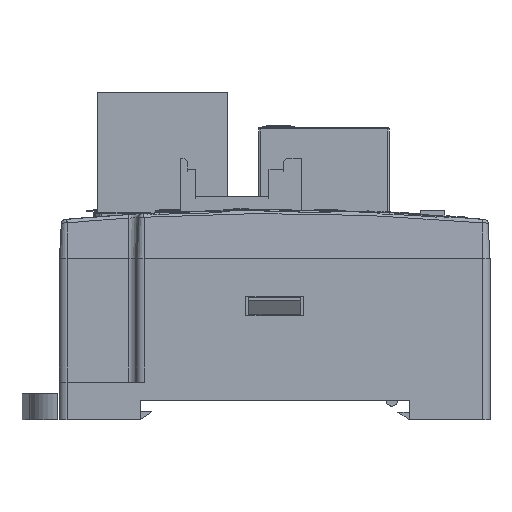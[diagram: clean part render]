
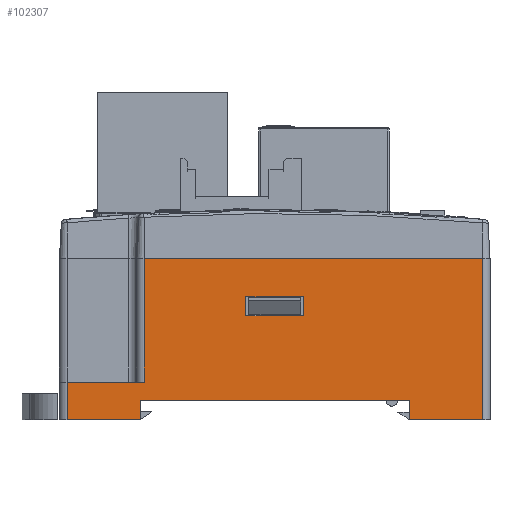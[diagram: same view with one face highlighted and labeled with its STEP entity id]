
A CAD part, front view. The second image highlights one B-rep face of the part: STEP entity #102307.
In plain terms, the highlighted planar face has unit normal (0, -1, 0).
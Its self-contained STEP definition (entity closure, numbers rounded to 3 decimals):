
#5244=DIRECTION('',(0.,0.,-1.));
#5245=VECTOR('',#5244,21.);
#5246=CARTESIAN_POINT('',(27.,-60.,0.));
#5247=LINE('',#5246,#5245);
#5304=DIRECTION('',(0.,0.,-1.));
#5305=VECTOR('',#5304,2.5);
#5306=CARTESIAN_POINT('',(17.5,-60.,-18.5));
#5307=LINE('',#5306,#5305);
#5897=DIRECTION('',(0.,0.,1.));
#5898=VECTOR('',#5897,16.1);
#5899=CARTESIAN_POINT('',(-17.,-60.,-16.1));
#5900=LINE('',#5899,#5898);
#5905=DIRECTION('',(1.,0.,0.));
#5906=VECTOR('',#5905,9.5);
#5907=CARTESIAN_POINT('',(17.5,-60.,-21.));
#5908=LINE('',#5907,#5906);
#5909=DIRECTION('',(1.,0.,0.));
#5910=VECTOR('',#5909,9.5);
#5911=CARTESIAN_POINT('',(-27.,-60.,-21.));
#5912=LINE('',#5911,#5910);
#5917=DIRECTION('',(0.,0.,1.));
#5918=VECTOR('',#5917,2.5);
#5919=CARTESIAN_POINT('',(-3.75,-60.,-7.5));
#5920=LINE('',#5919,#5918);
#5989=DIRECTION('',(1.,0.,0.));
#5990=VECTOR('',#5989,7.5);
#5991=CARTESIAN_POINT('',(-3.75,-60.,-5.));
#5992=LINE('',#5991,#5990);
#6180=DIRECTION('',(0.,0.,-1.));
#6181=VECTOR('',#6180,2.5);
#6182=CARTESIAN_POINT('',(3.75,-60.,-5.));
#6183=LINE('',#6182,#6181);
#6188=DIRECTION('',(-1.,0.,0.));
#6189=VECTOR('',#6188,7.5);
#6190=CARTESIAN_POINT('',(3.75,-60.,-7.5));
#6191=LINE('',#6190,#6189);
#6196=DIRECTION('',(-1.,0.,0.));
#6197=VECTOR('',#6196,35.);
#6198=CARTESIAN_POINT('',(17.5,-60.,-18.5));
#6199=LINE('',#6198,#6197);
#6204=DIRECTION('',(0.,0.,1.));
#6205=VECTOR('',#6204,2.5);
#6206=CARTESIAN_POINT('',(-17.5,-60.,-21.));
#6207=LINE('',#6206,#6205);
#34708=DIRECTION('',(1.,0.,0.));
#34709=VECTOR('',#34708,10.);
#34710=CARTESIAN_POINT('',(-27.,-60.,-16.1));
#34711=LINE('',#34710,#34709);
#34745=DIRECTION('',(0.,0.,1.));
#34746=VECTOR('',#34745,4.9);
#34747=CARTESIAN_POINT('',(-27.,-60.,-21.));
#34748=LINE('',#34747,#34746);
#34838=DIRECTION('',(1.,0.,0.));
#34839=VECTOR('',#34838,44.);
#34840=CARTESIAN_POINT('',(-17.,-60.,0.));
#34841=LINE('',#34840,#34839);
#85634=CARTESIAN_POINT('',(-17.5,-60.,-21.));
#85635=VERTEX_POINT('',#85634);
#85636=CARTESIAN_POINT('',(-27.,-60.,-21.));
#85637=VERTEX_POINT('',#85636);
#85664=CARTESIAN_POINT('',(27.,-60.,-21.));
#85665=VERTEX_POINT('',#85664);
#85666=CARTESIAN_POINT('',(17.5,-60.,-21.));
#85667=VERTEX_POINT('',#85666);
#85736=CARTESIAN_POINT('',(17.5,-60.,-18.5));
#85737=CARTESIAN_POINT('',(-17.5,-60.,-18.5));
#85738=VERTEX_POINT('',#85736);
#85739=VERTEX_POINT('',#85737);
#85740=CARTESIAN_POINT('',(-27.,-60.,-16.1));
#85741=VERTEX_POINT('',#85740);
#85742=CARTESIAN_POINT('',(-17.,-60.,-16.1));
#85743=VERTEX_POINT('',#85742);
#85744=CARTESIAN_POINT('',(-3.75,-60.,-7.5));
#85745=CARTESIAN_POINT('',(-3.75,-60.,-5.));
#85746=VERTEX_POINT('',#85744);
#85747=VERTEX_POINT('',#85745);
#85748=CARTESIAN_POINT('',(3.75,-60.,-7.5));
#85749=VERTEX_POINT('',#85748);
#85750=CARTESIAN_POINT('',(3.75,-60.,-5.));
#85751=VERTEX_POINT('',#85750);
#95502=CARTESIAN_POINT('',(-17.,-60.,0.));
#95503=CARTESIAN_POINT('',(27.,-60.,0.));
#95504=VERTEX_POINT('',#95502);
#95505=VERTEX_POINT('',#95503);
#102274=CARTESIAN_POINT('',(0.,-60.,-10.5));
#102275=DIRECTION('',(0.,1.,0.));
#102276=DIRECTION('',(1.,0.,0.));
#102277=AXIS2_PLACEMENT_3D('',#102274,#102275,#102276);
#102278=PLANE('',#102277);
#102279=ORIENTED_EDGE('',*,*,#101101,.T.);
#102280=ORIENTED_EDGE('',*,*,#101122,.F.);
#102281=ORIENTED_EDGE('',*,*,#101220,.F.);
#102283=ORIENTED_EDGE('',*,*,#102282,.T.);
#102285=ORIENTED_EDGE('',*,*,#102284,.F.);
#102287=ORIENTED_EDGE('',*,*,#102286,.F.);
#102289=ORIENTED_EDGE('',*,*,#102288,.T.);
#102291=ORIENTED_EDGE('',*,*,#102290,.T.);
#102292=ORIENTED_EDGE('',*,*,#102258,.T.);
#102294=ORIENTED_EDGE('',*,*,#102293,.T.);
#102295=EDGE_LOOP('',(#102279,#102280,#102281,#102283,#102285,#102287,#102289,
#102291,#102292,#102294));
#102296=FACE_OUTER_BOUND('',#102295,.F.);
#102298=ORIENTED_EDGE('',*,*,#102297,.F.);
#102300=ORIENTED_EDGE('',*,*,#102299,.F.);
#102302=ORIENTED_EDGE('',*,*,#102301,.F.);
#102304=ORIENTED_EDGE('',*,*,#102303,.F.);
#102305=EDGE_LOOP('',(#102298,#102300,#102302,#102304));
#102306=FACE_BOUND('',#102305,.F.);
#102307=ADVANCED_FACE('',(#102296,#102306),#102278,.F.);
#101101=EDGE_CURVE('',#95505,#85665,#5247,.T.);
#101122=EDGE_CURVE('',#85667,#85665,#5908,.T.);
#101220=EDGE_CURVE('',#85738,#85667,#5307,.T.);
#102258=EDGE_CURVE('',#85743,#95504,#5900,.T.);
#102282=EDGE_CURVE('',#85738,#85739,#6199,.T.);
#102284=EDGE_CURVE('',#85635,#85739,#6207,.T.);
#102286=EDGE_CURVE('',#85637,#85635,#5912,.T.);
#102288=EDGE_CURVE('',#85637,#85741,#34748,.T.);
#102290=EDGE_CURVE('',#85741,#85743,#34711,.T.);
#102293=EDGE_CURVE('',#95504,#95505,#34841,.T.);
#102297=EDGE_CURVE('',#85746,#85747,#5920,.T.);
#102299=EDGE_CURVE('',#85749,#85746,#6191,.T.);
#102301=EDGE_CURVE('',#85751,#85749,#6183,.T.);
#102303=EDGE_CURVE('',#85747,#85751,#5992,.T.);
